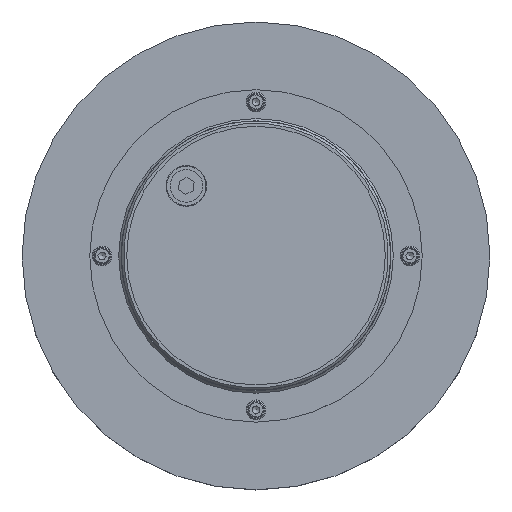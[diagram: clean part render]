
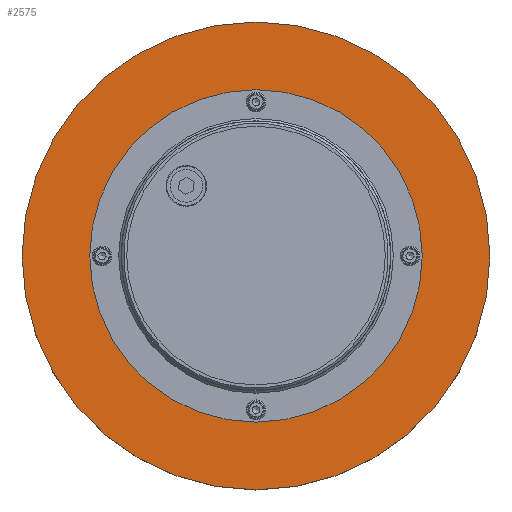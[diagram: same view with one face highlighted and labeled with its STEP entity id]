
A CAD part, top view. The second image highlights one B-rep face of the part: STEP entity #2575.
In plain terms, the highlighted planar face has unit normal (0, 0, 1).
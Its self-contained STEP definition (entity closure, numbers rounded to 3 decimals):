
#164=PLANE('',#2825);
#633=FACE_OUTER_BOUND('',#815,.T.);
#815=EDGE_LOOP('',(#1796));
#996=CIRCLE('',#2826,190.);
#1135=VERTEX_POINT('',#3981);
#1387=EDGE_CURVE('',#1135,#1135,#996,.T.);
#1796=ORIENTED_EDGE('',*,*,#1387,.T.);
#2575=ADVANCED_FACE('',(#633),#164,.T.);
#2825=AXIS2_PLACEMENT_3D('',#3980,#3230,#3231);
#2826=AXIS2_PLACEMENT_3D('',#3982,#3232,#3233);
#3230=DIRECTION('center_axis',(0.,0.,
1.));
#3231=DIRECTION('ref_axis',(-1.,0.,0.));
#3232=DIRECTION('center_axis',(0.,0.,
1.));
#3233=DIRECTION('ref_axis',(-1.,0.,0.));
#3980=CARTESIAN_POINT('Origin',(0.,0.,
45.));
#3981=CARTESIAN_POINT('',(190.,0.,45.));
#3982=CARTESIAN_POINT('Origin',(0.,0.,
45.));
